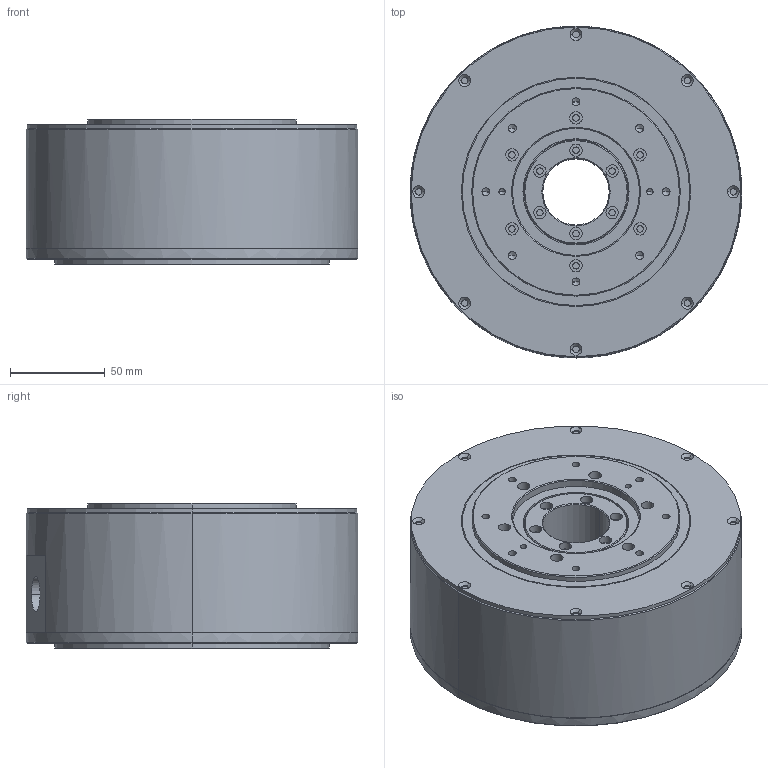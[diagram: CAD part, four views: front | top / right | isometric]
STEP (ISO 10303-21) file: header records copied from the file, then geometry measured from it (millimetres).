
FILE_DESCRIPTION((''),'2;1');
FILE_NAME('PM-DDC06D','2016-02-05T',('jb17719'),(''),'PRO/ENGINEER BY PARAMETRIC TECHNOLOGY CORPORATION, 2008070','PRO/ENGINEER BY PARAMETRIC TECHNOLOGY CORPORATION, 2008070','');
FILE_SCHEMA(('AUTOMOTIVE_DESIGN_CC2 { 1 2 10303 214 -1 1 5 2 }'));
Length unit declared in the file: millimetre
Products named in the file (1): PM-DDC06D
Bounding box: 175 x 175 x 77 mm (x, y, z)
Volume: 1653097.9 mm3; surface area: 106060.8 mm2
Topology: 1 solids, 1 shells, 287 faces, 610 edges, 376 vertices
Faces by surface type: cylinder 156, plane 73, cone 58
Entity records: 7957 total; most frequent: DIRECTION 1509, CARTESIAN_POINT 1310, ORIENTED_EDGE 1172, AXIS2_PLACEMENT_3D 642, EDGE_CURVE 586, VERTEX_POINT 376, EDGE_LOOP 364, CIRCLE 355
